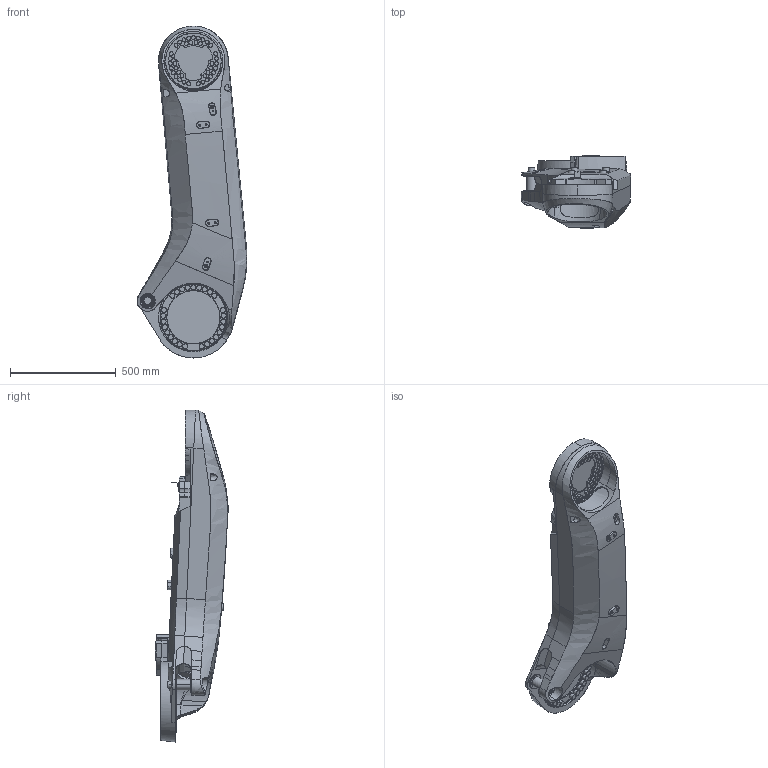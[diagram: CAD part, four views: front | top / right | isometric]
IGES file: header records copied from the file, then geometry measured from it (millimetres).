
Start section: SolidWorks IGES file using analytic representation for surfaces
Global section: file name: N:\DM\Robotics\SEROP_PROJ\Product Development\DevelopmentProjects\Manipulator_Modularity\04. Product Design\06. CAD\Amanda\6730S Simulation models\IRB6730S_150kg-400_OC_01_IGES_J\IRB6730S_All_OC_00_LINK02_CAD.igs; native system: SolidWorks 2024; preprocessor: SolidWorks 2024; author: SEJOHLUN; date: 251219.140339; units: millimetre
Bounding box: 518.83 x 349 x 1566.77 mm (x, y, z)
Surface area: 2068714 mm2 (no closed solid volume)
Topology: 0 solids, 0 shells, 822 faces, 18616 edges, 18602 vertices
Faces by surface type: bspline 507, revolution 315
